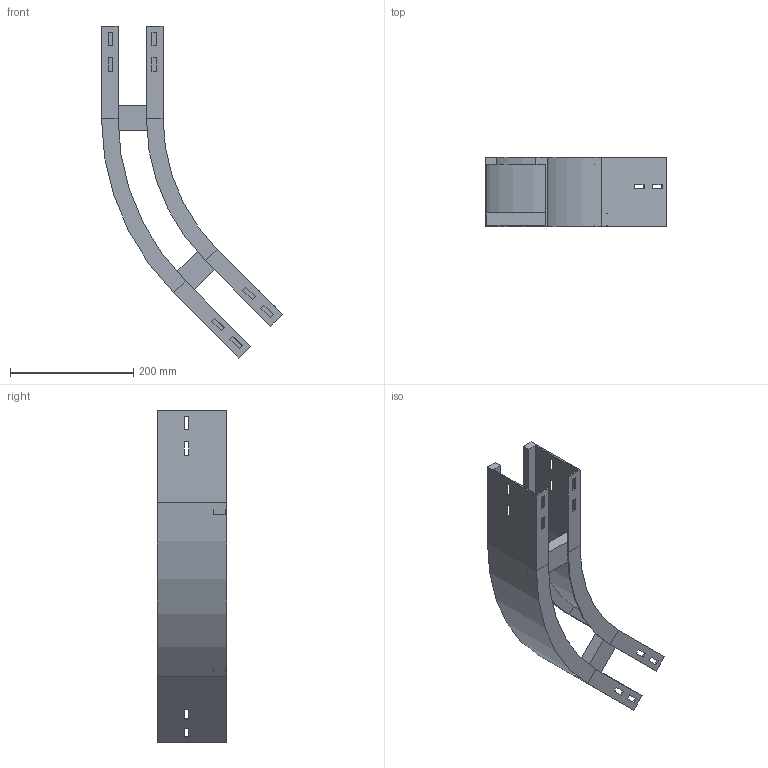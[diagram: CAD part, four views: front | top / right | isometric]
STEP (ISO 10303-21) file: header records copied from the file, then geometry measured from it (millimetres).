
FILE_DESCRIPTION (( 'STEP AP214' ), '1' );
FILE_NAME ('A2_11B3J100.step', '2025-02-21T15:14:07', ( '' ), ( '' ), 'SwSTEP 2.0', 'SolidWorks 2023', '' );
FILE_SCHEMA (( 'AUTOMOTIVE_DESIGN' ));
Length unit declared in the file: millimetre
Products named in the file (4): A2_LONGH.ESTERNO 45°_H112.5_R300+100; A2_LONGH.INTERNO 45°_H112.5_R300; TRAVERSINO_100; A2_11B3J100
Assembly tree (4 placements, depth 2):
  A2_11B3J100
    A2_LONGH.INTERNO 45°_H112.5_R300
    A2_LONGH.ESTERNO 45°_H112.5_R300+100
    TRAVERSINO_100  x2
Bounding box: 293.93 x 112.5 x 538.91 mm (x, y, z)
Volume: 687538.7 mm3; surface area: 382849.2 mm2
Topology: 4 solids, 4 shells, 128 faces, 328 edges, 208 vertices
Faces by surface type: plane 120, cylinder 8
Entity records: 3813 total; most frequent: CARTESIAN_POINT 645, ORIENTED_EDGE 632, DIRECTION 590, EDGE_CURVE 316, VECTOR 300, LINE 300, VERTEX_POINT 200, EDGE_LOOP 154
